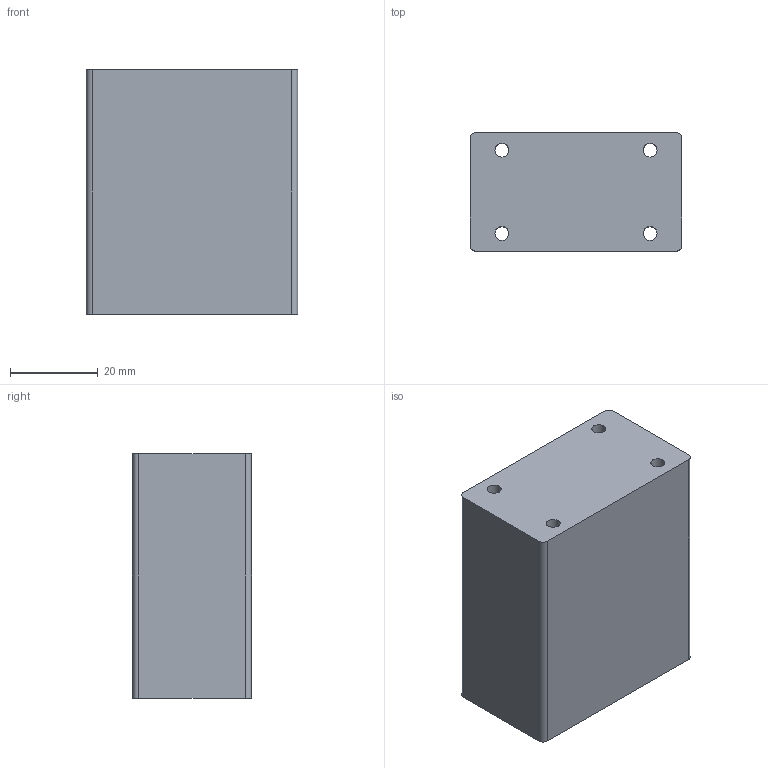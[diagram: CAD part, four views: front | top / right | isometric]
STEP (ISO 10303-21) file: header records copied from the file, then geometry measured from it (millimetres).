
FILE_DESCRIPTION(('Mechanical CAD reference from nasji.com'),'2;1');
FILE_NAME('NASJI.step','',(''),(''),'','NASJI distribution','');
FILE_SCHEMA(('AUTOMOTIVE_DESIGN { 1 0 10303 214 1 1 1 1 }'));
Length unit declared in the file: millimetre
Products named in the file (1): Open CASCADE STEP translator 7.8 11
Bounding box: 48.34 x 27.2 x 55.9 mm (x, y, z)
Volume: 71608.3 mm3; surface area: 13121.4 mm2
Topology: 1 solids, 1 shells, 14 faces, 36 edges, 24 vertices
Faces by surface type: cylinder 8, plane 6
Full cylindrical faces by diameter (mm): 3.2 x4
Entity records: 966 total; most frequent: CARTESIAN_POINT 219, DIRECTION 142, LINE 76, VECTOR 76, ORIENTED_EDGE 72, PCURVE 72, DEFINITIONAL_REPRESENTATION 72, EDGE_CURVE 36
